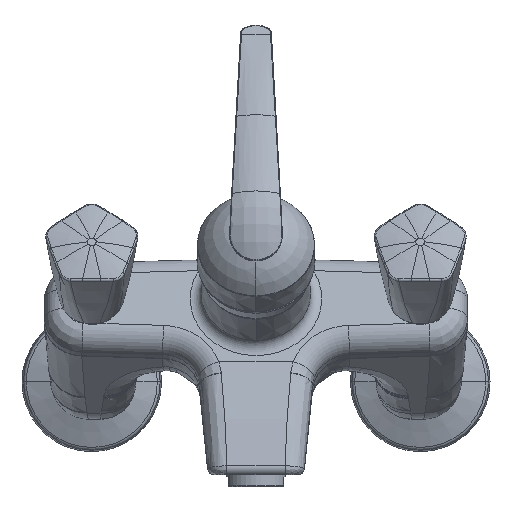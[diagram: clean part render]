
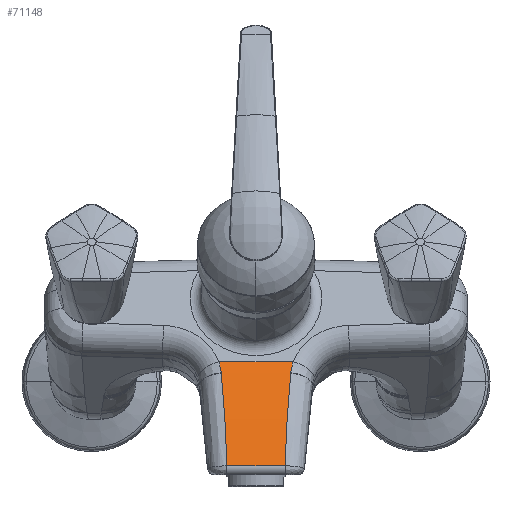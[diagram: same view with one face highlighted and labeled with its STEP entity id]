
A CAD part, top view. The second image highlights one B-rep face of the part: STEP entity #71148.
In plain terms, the highlighted cylindrical face has radius 350.1 mm (diameter 700.2 mm), a partial arc.
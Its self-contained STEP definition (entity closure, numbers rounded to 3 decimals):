
#26709=CARTESIAN_POINT('',(-17.357,-22.895,
28.345));
#26710=CARTESIAN_POINT('',(-17.241,-23.225,
28.535));
#26711=CARTESIAN_POINT('',(-17.025,-23.89,
28.918));
#26712=CARTESIAN_POINT('',(-16.746,-24.904,
29.497));
#26713=CARTESIAN_POINT('',(-16.515,-25.931,
30.078));
#26714=CARTESIAN_POINT('',(-16.332,-26.966,
30.66));
#26715=CARTESIAN_POINT('',(-16.243,-27.659,
31.046));
#26716=CARTESIAN_POINT('',(-16.206,-28.006,
31.239));
#26732=DIRECTION('',(1.,0.,0.));
#26733=VECTOR('',#26732,27.031);
#26734=CARTESIAN_POINT('',(-13.516,-71.416,
51.585));
#26735=LINE('',#26734,#26733);
#26736=CARTESIAN_POINT('',(-13.516,-71.416,
51.585));
#26737=CARTESIAN_POINT('',(-13.571,-69.562,
50.867));
#26738=CARTESIAN_POINT('',(-13.696,-65.865,
49.398));
#26739=CARTESIAN_POINT('',(-13.926,-60.354,
47.098));
#26740=CARTESIAN_POINT('',(-14.197,-54.881,
44.703));
#26741=CARTESIAN_POINT('',(-14.51,-49.449,
42.215));
#26742=CARTESIAN_POINT('',(-14.865,-44.061,
39.636));
#26743=CARTESIAN_POINT('',(-15.261,-38.722,
36.967));
#26744=CARTESIAN_POINT('',(-15.699,-33.433,
34.209));
#26745=CARTESIAN_POINT('',(-16.019,-29.945,
32.314));
#26746=CARTESIAN_POINT('',(-16.186,-28.209,
31.352));
#26748=DIRECTION('',(1.,0.,0.));
#26749=VECTOR('',#26748,34.714);
#26750=CARTESIAN_POINT('',(-17.357,-22.895,
28.345));
#26751=LINE('',#26750,#26749);
#26792=CARTESIAN_POINT('',(13.516,-71.416,
51.585));
#26793=CARTESIAN_POINT('',(13.571,-69.562,
50.867));
#26794=CARTESIAN_POINT('',(13.696,-65.865,
49.398));
#26795=CARTESIAN_POINT('',(13.926,-60.354,
47.098));
#26796=CARTESIAN_POINT('',(14.197,-54.881,
44.703));
#26797=CARTESIAN_POINT('',(14.51,-49.449,
42.215));
#26798=CARTESIAN_POINT('',(14.865,-44.061,
39.636));
#26799=CARTESIAN_POINT('',(15.261,-38.722,
36.967));
#26800=CARTESIAN_POINT('',(15.699,-33.433,
34.209));
#26801=CARTESIAN_POINT('',(16.019,-29.945,
32.314));
#26802=CARTESIAN_POINT('',(16.186,-28.209,
31.352));
#26817=CARTESIAN_POINT('',(16.206,-28.006,
31.239));
#26818=CARTESIAN_POINT('',(16.204,-28.028,
31.251));
#26819=CARTESIAN_POINT('',(16.199,-28.073,
31.276));
#26820=CARTESIAN_POINT('',(16.192,-28.141,
31.314));
#26821=CARTESIAN_POINT('',(16.188,-28.186,
31.339));
#26822=CARTESIAN_POINT('',(16.186,-28.209,
31.352));
#26837=CARTESIAN_POINT('',(17.357,-22.895,
28.345));
#26838=CARTESIAN_POINT('',(17.241,-23.225,
28.535));
#26839=CARTESIAN_POINT('',(17.025,-23.89,
28.918));
#26840=CARTESIAN_POINT('',(16.746,-24.904,
29.497));
#26841=CARTESIAN_POINT('',(16.515,-25.931,
30.078));
#26842=CARTESIAN_POINT('',(16.332,-26.966,
30.66));
#26843=CARTESIAN_POINT('',(16.243,-27.659,
31.046));
#26844=CARTESIAN_POINT('',(16.206,-28.006,
31.239));
#27934=CARTESIAN_POINT('',(-16.206,-28.006,
31.239));
#27935=CARTESIAN_POINT('',(-16.204,-28.028,
31.251));
#27936=CARTESIAN_POINT('',(-16.199,-28.073,
31.276));
#27937=CARTESIAN_POINT('',(-16.192,-28.141,
31.314));
#27938=CARTESIAN_POINT('',(-16.188,-28.186,
31.339));
#27939=CARTESIAN_POINT('',(-16.186,-28.209,
31.352));
#27982=CARTESIAN_POINT('',(-13.516,-71.416,
51.585));
#37461=VERTEX_POINT('',#26837);
#37462=VERTEX_POINT('',#26844);
#37465=VERTEX_POINT('',#26822);
#37542=VERTEX_POINT('',#26709);
#37543=VERTEX_POINT('',#26716);
#37546=VERTEX_POINT('',#27939);
#37898=VERTEX_POINT('',#27982);
#37900=CARTESIAN_POINT('',(13.516,-71.416,
51.585));
#37901=VERTEX_POINT('',#37900);
#71127=CARTESIAN_POINT('',(0.,-197.945,-274.851));
#71128=DIRECTION('',(1.,0.,0.));
#71129=DIRECTION('',(0.,0.,-1.));
#71130=AXIS2_PLACEMENT_3D('',#71127,#71128,#71129);
#71131=CYLINDRICAL_SURFACE('',#71130,350.1);
#71133=ORIENTED_EDGE('',*,*,#71132,.F.);
#71135=ORIENTED_EDGE('',*,*,#71134,.T.);
#71137=ORIENTED_EDGE('',*,*,#71136,.F.);
#71138=ORIENTED_EDGE('',*,*,#71117,.F.);
#71139=ORIENTED_EDGE('',*,*,#46594,.T.);
#71141=ORIENTED_EDGE('',*,*,#71140,.T.);
#71143=ORIENTED_EDGE('',*,*,#71142,.T.);
#71145=ORIENTED_EDGE('',*,*,#71144,.F.);
#71146=EDGE_LOOP('',(#71133,#71135,#71137,#71138,#71139,#71141,#71143,#71145));
#71147=FACE_OUTER_BOUND('',#71146,.F.);
#71148=ADVANCED_FACE('',(#71147),#71131,.T.);
#26717=B_SPLINE_CURVE_WITH_KNOTS('',3,(#26709,#26710,#26711,#26712,#26713,
#26714,#26715,#26716),.UNSPECIFIED.,.F.,.F.,(4,1,1,1,1,4),(0.,0.2,0.4,
0.6,0.8,1.),.UNSPECIFIED.);
#26747=B_SPLINE_CURVE_WITH_KNOTS('',3,(#26736,#26737,#26738,#26739,#26740,
#26741,#26742,#26743,#26744,#26745,#26746),.UNSPECIFIED.,.F.,.F.,(4,1,1,1,1,1,1,
1,4),(0.,0.125,0.25,0.375,0.5,0.625,0.75,0.875,1.),
.UNSPECIFIED.);
#26803=B_SPLINE_CURVE_WITH_KNOTS('',3,(#26792,#26793,#26794,#26795,#26796,
#26797,#26798,#26799,#26800,#26801,#26802),.UNSPECIFIED.,.F.,.F.,(4,1,1,1,1,1,1,
1,4),(0.,0.125,0.25,0.375,0.5,0.625,0.75,0.875,1.),
.UNSPECIFIED.);
#26823=B_SPLINE_CURVE_WITH_KNOTS('',3,(#26817,#26818,#26819,#26820,#26821,
#26822),.UNSPECIFIED.,.F.,.F.,(4,1,1,4),(0.,0.333,
0.667,1.),.UNSPECIFIED.);
#26845=B_SPLINE_CURVE_WITH_KNOTS('',3,(#26837,#26838,#26839,#26840,#26841,
#26842,#26843,#26844),.UNSPECIFIED.,.F.,.F.,(4,1,1,1,1,4),(0.,0.2,0.4,
0.6,0.8,1.),.UNSPECIFIED.);
#27940=B_SPLINE_CURVE_WITH_KNOTS('',3,(#27934,#27935,#27936,#27937,#27938,
#27939),.UNSPECIFIED.,.F.,.F.,(4,1,1,4),(0.,0.333,
0.667,1.),.UNSPECIFIED.);
#46594=EDGE_CURVE('',#37542,#37461,#26751,.T.);
#71117=EDGE_CURVE('',#37542,#37543,#26717,.T.);
#71132=EDGE_CURVE('',#37898,#37901,#26735,.T.);
#71134=EDGE_CURVE('',#37898,#37546,#26747,.T.);
#71136=EDGE_CURVE('',#37543,#37546,#27940,.T.);
#71140=EDGE_CURVE('',#37461,#37462,#26845,.T.);
#71142=EDGE_CURVE('',#37462,#37465,#26823,.T.);
#71144=EDGE_CURVE('',#37901,#37465,#26803,.T.);
